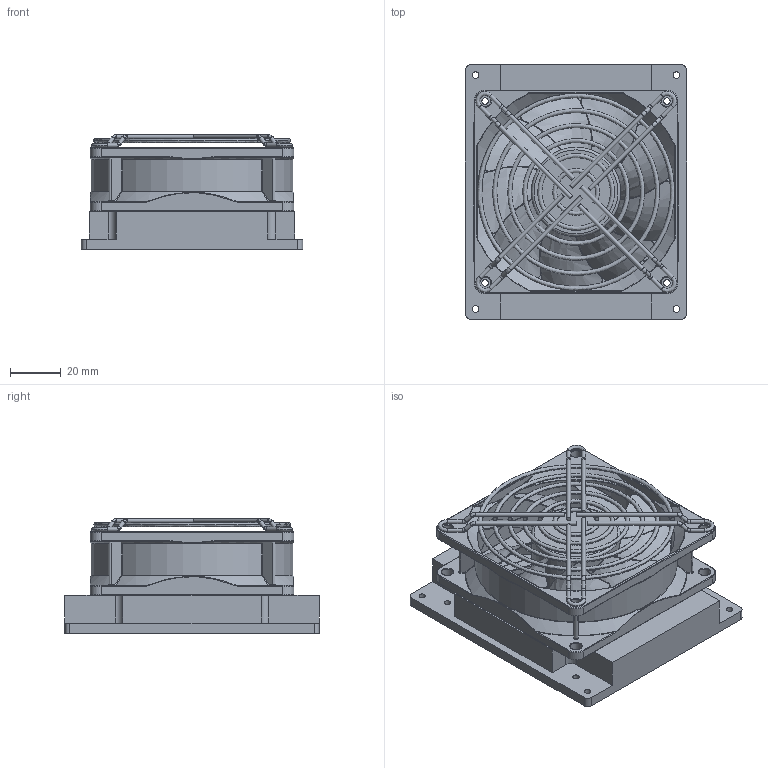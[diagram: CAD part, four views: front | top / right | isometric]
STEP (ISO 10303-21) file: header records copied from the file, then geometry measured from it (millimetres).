
FILE_DESCRIPTION(/* description */ (''),/* implementation_level */ '2;1');
FILE_NAME(/* name */ '70861-HF-Thor_AGX-Thor.step',/* time_stamp */ '2026-07-27T17:01:12+02:00',/* author */ (''),/* organization */ (''),/* preprocessor_version */ 'ST-DEVELOPER v20.1',/* originating_system */ 'Autodesk Translation Framework v15.8.0.0',/* authorisation */ '');
FILE_SCHEMA (('AUTOMOTIVE_DESIGN { 1 0 10303 214 3 1 1 }'));
Products named in the file (6): Xaveir_fischer; 100_87_15_mechanical; Fingerguard - 80mm; 2026-07-27-13-48-59-846; 2026-07-27-13-48-59-847; 2026-07-27-13-48-59-848
Assembly tree (5 placements, depth 3):
  Xaveir_fischer
    100_87_15_mechanical
    Fingerguard - 80mm
    2026-07-27-13-48-59-846
      2026-07-27-13-48-59-847
      2026-07-27-13-48-59-848
Bounding box: 87 x 100 x 45.11 mm (x, y, z)
Volume: 140732.9 mm3; surface area: 66336.2 mm2
Topology: 13 solids, 13 shells, 928 faces, 2136 edges, 1207 vertices
Faces by surface type: bspline 445, cylinder 187, torus 128, plane 100, sphere 48, cone 20
Full cylindrical faces by diameter (mm): 1.6 x24, 2.529 x8, 4.5 x8, 31 x1, 35 x1, 77.5 x1
Entity records: 56579 total; most frequent: CARTESIAN_POINT 37873, ORIENTED_EDGE 4208, DIRECTION 3501, EDGE_CURVE 2104, AXIS2_PLACEMENT_3D 1552, VERTEX_POINT 1207, CIRCLE 1006, EDGE_LOOP 973
